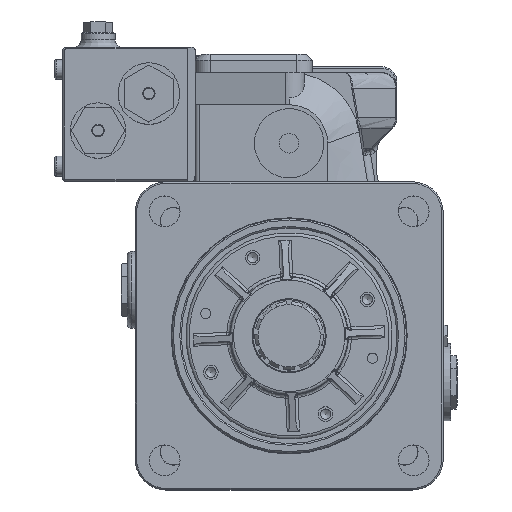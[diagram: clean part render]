
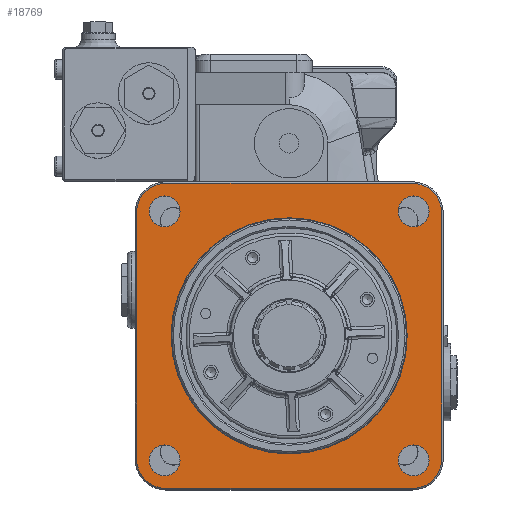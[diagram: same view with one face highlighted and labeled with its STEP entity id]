
A CAD part, top view. The second image highlights one B-rep face of the part: STEP entity #18769.
In plain terms, the highlighted planar face has unit normal (0, 0, 1).
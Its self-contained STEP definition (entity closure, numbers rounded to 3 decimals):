
#18535=CARTESIAN_POINT('',(76.6,0.,23.));
#18536=VERTEX_POINT('',#18535);
#18537=CARTESIAN_POINT('',(0.0,0.0,23.));
#18538=DIRECTION('',(0.0,0.0,1.0));
#18539=DIRECTION('',(-1.0,0.0,0.0));
#18540=AXIS2_PLACEMENT_3D('',#18537,#18538,#18539);
#18541=CIRCLE('',#18540,76.6);
#18542=EDGE_CURVE('',#18536,#18536,#18541,.T.);
#18647=CARTESIAN_POINT('',(0.,0.,23.));
#18648=DIRECTION('',(0.0,0.0,1.0));
#18649=DIRECTION('',(1.0,0.0,0.0));
#18650=AXIS2_PLACEMENT_3D('',#18647,#18648,#18649);
#18651=PLANE('',#18650);
#18652=CARTESIAN_POINT('',(-80.0,99.0,23.));
#18653=VERTEX_POINT('',#18652);
#18654=CARTESIAN_POINT('',(80.0,99.0,23.));
#18655=VERTEX_POINT('',#18654);
#18656=CARTESIAN_POINT('',(-80.0,99.0,23.));
#18657=DIRECTION('',(1.0,0.0,0.0));
#18658=VECTOR('',#18657,160.0);
#18659=LINE('',#18656,#18658);
#18660=EDGE_CURVE('',#18653,#18655,#18659,.T.);
#18661=ORIENTED_EDGE('',*,*,#18660,.F.);
#18662=CARTESIAN_POINT('',(-99.,80.0,23.));
#18663=VERTEX_POINT('',#18662);
#18664=CARTESIAN_POINT('',(-80.,80.,23.));
#18665=DIRECTION('',(0.0,0.0,-1.0));
#18666=DIRECTION('',(0.0,1.0,0.0));
#18667=AXIS2_PLACEMENT_3D('',#18664,#18665,#18666);
#18668=CIRCLE('',#18667,19.0);
#18669=EDGE_CURVE('',#18663,#18653,#18668,.T.);
#18670=ORIENTED_EDGE('',*,*,#18669,.F.);
#18671=CARTESIAN_POINT('',(-99.,-80.0,23.));
#18672=VERTEX_POINT('',#18671);
#18673=CARTESIAN_POINT('',(-99.,-80.0,23.));
#18674=DIRECTION('',(0.0,1.0,0.0));
#18675=VECTOR('',#18674,160.0);
#18676=LINE('',#18673,#18675);
#18677=EDGE_CURVE('',#18672,#18663,#18676,.T.);
#18678=ORIENTED_EDGE('',*,*,#18677,.F.);
#18679=CARTESIAN_POINT('',(-80.,-99.0,23.));
#18680=VERTEX_POINT('',#18679);
#18681=CARTESIAN_POINT('',(-80.,-80.,23.));
#18682=DIRECTION('',(0.0,0.0,-1.0));
#18683=DIRECTION('',(-1.0,0.0,0.0));
#18684=AXIS2_PLACEMENT_3D('',#18681,#18682,#18683);
#18685=CIRCLE('',#18684,19.);
#18686=EDGE_CURVE('',#18680,#18672,#18685,.T.);
#18687=ORIENTED_EDGE('',*,*,#18686,.F.);
#18688=CARTESIAN_POINT('',(80.,-99.,23.));
#18689=VERTEX_POINT('',#18688);
#18690=CARTESIAN_POINT('',(80.,-99.,23.));
#18691=DIRECTION('',(-1.0,0.0,0.0));
#18692=VECTOR('',#18691,160.);
#18693=LINE('',#18690,#18692);
#18694=EDGE_CURVE('',#18689,#18680,#18693,.T.);
#18695=ORIENTED_EDGE('',*,*,#18694,.F.);
#18696=CARTESIAN_POINT('',(99.,-80.0,23.));
#18697=VERTEX_POINT('',#18696);
#18698=CARTESIAN_POINT('',(80.,-80.,23.));
#18699=DIRECTION('',(0.0,0.0,-1.0));
#18700=DIRECTION('',(0.0,-1.0,0.0));
#18701=AXIS2_PLACEMENT_3D('',#18698,#18699,#18700);
#18702=CIRCLE('',#18701,19.);
#18703=EDGE_CURVE('',#18697,#18689,#18702,.T.);
#18704=ORIENTED_EDGE('',*,*,#18703,.F.);
#18705=CARTESIAN_POINT('',(99.,80.0,23.));
#18706=VERTEX_POINT('',#18705);
#18707=CARTESIAN_POINT('',(99.,80.0,23.));
#18708=DIRECTION('',(0.0,-1.0,0.0));
#18709=VECTOR('',#18708,160.0);
#18710=LINE('',#18707,#18709);
#18711=EDGE_CURVE('',#18706,#18697,#18710,.T.);
#18712=ORIENTED_EDGE('',*,*,#18711,.F.);
#18713=CARTESIAN_POINT('',(80.,80.,23.));
#18714=DIRECTION('',(0.0,0.0,-1.0));
#18715=DIRECTION('',(1.0,0.0,0.0));
#18716=AXIS2_PLACEMENT_3D('',#18713,#18714,#18715);
#18717=CIRCLE('',#18716,19.0);
#18718=EDGE_CURVE('',#18655,#18706,#18717,.T.);
#18719=ORIENTED_EDGE('',*,*,#18718,.F.);
#18720=EDGE_LOOP('',(#18661,#18670,#18678,#18687,#18695,#18704,#18712,#18719));
#18721=FACE_OUTER_BOUND('',#18720,.T.);
#18722=CARTESIAN_POINT('',(90.8,-80.8,23.));
#18723=VERTEX_POINT('',#18722);
#18724=CARTESIAN_POINT('',(80.8,-80.8,23.));
#18725=DIRECTION('',(0.0,0.0,-1.0));
#18726=DIRECTION('',(-1.0,0.0,0.0));
#18727=AXIS2_PLACEMENT_3D('',#18724,#18725,#18726);
#18728=CIRCLE('',#18727,10.0);
#18729=EDGE_CURVE('',#18723,#18723,#18728,.T.);
#18730=ORIENTED_EDGE('',*,*,#18729,.T.);
#18731=EDGE_LOOP('',(#18730));
#18732=FACE_BOUND('',#18731,.T.);
#18733=CARTESIAN_POINT('',(-70.8,80.8,23.));
#18734=VERTEX_POINT('',#18733);
#18735=CARTESIAN_POINT('',(-80.8,80.8,23.));
#18736=DIRECTION('',(0.0,0.0,-1.0));
#18737=DIRECTION('',(-1.0,0.0,0.0));
#18738=AXIS2_PLACEMENT_3D('',#18735,#18736,#18737);
#18739=CIRCLE('',#18738,10.0);
#18740=EDGE_CURVE('',#18734,#18734,#18739,.T.);
#18741=ORIENTED_EDGE('',*,*,#18740,.T.);
#18742=EDGE_LOOP('',(#18741));
#18743=FACE_BOUND('',#18742,.T.);
#18744=CARTESIAN_POINT('',(90.8,80.8,23.));
#18745=VERTEX_POINT('',#18744);
#18746=CARTESIAN_POINT('',(80.8,80.8,23.));
#18747=DIRECTION('',(0.0,0.0,-1.0));
#18748=DIRECTION('',(-1.0,0.0,0.0));
#18749=AXIS2_PLACEMENT_3D('',#18746,#18747,#18748);
#18750=CIRCLE('',#18749,10.0);
#18751=EDGE_CURVE('',#18745,#18745,#18750,.T.);
#18752=ORIENTED_EDGE('',*,*,#18751,.T.);
#18753=EDGE_LOOP('',(#18752));
#18754=FACE_BOUND('',#18753,.T.);
#18755=CARTESIAN_POINT('',(-70.8,-80.8,23.));
#18756=VERTEX_POINT('',#18755);
#18757=CARTESIAN_POINT('',(-80.8,-80.8,23.));
#18758=DIRECTION('',(0.0,0.0,-1.0));
#18759=DIRECTION('',(-1.0,0.0,0.0));
#18760=AXIS2_PLACEMENT_3D('',#18757,#18758,#18759);
#18761=CIRCLE('',#18760,10.0);
#18762=EDGE_CURVE('',#18756,#18756,#18761,.T.);
#18763=ORIENTED_EDGE('',*,*,#18762,.T.);
#18764=EDGE_LOOP('',(#18763));
#18765=FACE_BOUND('',#18764,.T.);
#18766=ORIENTED_EDGE('',*,*,#18542,.F.);
#18767=EDGE_LOOP('',(#18766));
#18768=FACE_BOUND('',#18767,.T.);
#18769=ADVANCED_FACE('',(#18721,#18732,#18743,#18754,#18765,#18768),#18651,.T.);
